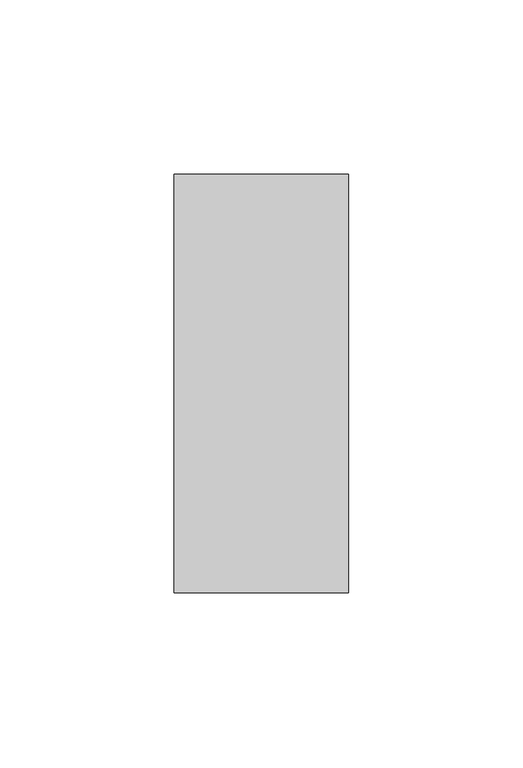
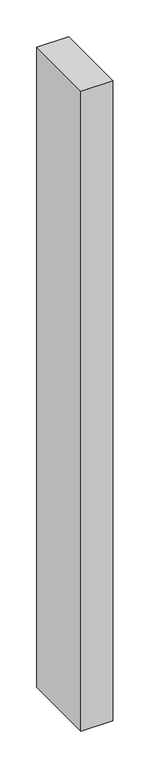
"""IFC4 building model written with IfcOpenShell, lengths in millimetres: member geometry, Прямоугольный импост : 50х120 мм."""

from ifc_helpers import new_model, si_unit, frame, origin, place, context, project, spatial, polyline, outline, extrude, source, transform, mapped, element, save


def member_6d54f6d0(model_context):
    return source(origin(), model_context, "Body", "SweptSolid", [
        extrude(outline(polyline([(0.0, 60.0), (0.0, -60.0), (-50.0, -60.0), (-50.0, 60.0), (0.0, 60.0)])), frame((0.0, 0.0, -1062.5), z_axis=(0.0, 0.0, 1.0), x_axis=(1.0, 0.0, 0.0)), (0.0, 0.0, 1.0), 1062.5),
    ])


if __name__ == "__main__":
    model = new_model("IFC4")
    model_context = context("Model", 3, world=origin())
    ifc_project = project(units=[si_unit("LENGTHUNIT", "METRE", prefix="MILLI")], contexts=[model_context])
    site = spatial("IfcSite", under=ifc_project)
    building = spatial("IfcBuilding", under=site)
    placement = place(None, origin())
    member_shape = member_6d54f6d0(model_context)
    element("IfcMember", 1, ObjectType="Прямоугольный импост : 50х120 мм", at=placement, inside=building, context=model_context, shape_type="MappedRepresentation", body=[
        mapped(member_shape, transform((0.0, 0.0, 0.0), x_axis=(1.0, 0.0, 0.0), y_axis=(0.0, 1.0, 0.0), z_axis=(0.0, 0.0, 1.0))),
    ])
    save(model, "model.ifc")
